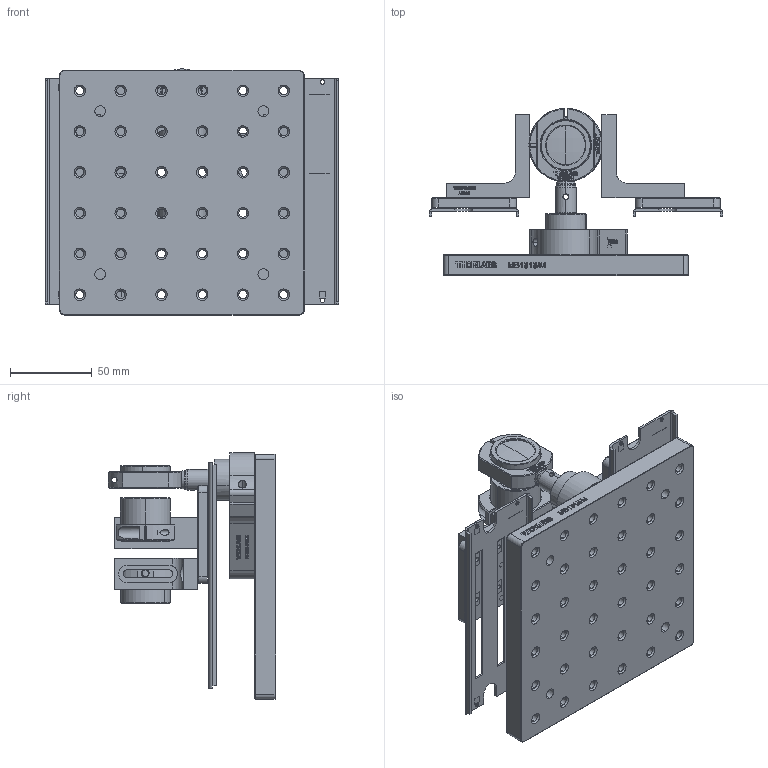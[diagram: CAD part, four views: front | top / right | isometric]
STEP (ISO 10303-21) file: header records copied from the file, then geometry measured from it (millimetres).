
FILE_DESCRIPTION (( 'STEP AP214' ), '1' );
FILE_NAME ('Zoom_lens_132.5-150mm_minimal.STEP', '2022-07-05T21:17:18', ( '' ), ( '' ), 'SwSTEP 2.0', 'SolidWorks 2016', '' );
FILE_SCHEMA (( 'AUTOMOTIVE_DESIGN' ));
Length unit declared in the file: inch
Products named in the file (1): Zoom_lens_132.5-150mm_minimal
Bounding box: 180.1 x 102.38 x 150.86 mm (x, y, z)
Volume: 429712 mm3; surface area: 170901.2 mm2
Topology: 28 solids, 28 shells, 3893 faces, 10199 edges, 6688 vertices
Faces by surface type: plane 1893, bspline 1230, cylinder 468, cone 294, torus 8
Entity records: 196987 total; most frequent: CARTESIAN_POINT 57242, ORIENTED_EDGE 20378, DIRECTION 14347, EDGE_CURVE 10189, VERTEX_POINT 6688, VECTOR 6361, LINE 6361, EDGE_LOOP 4401
